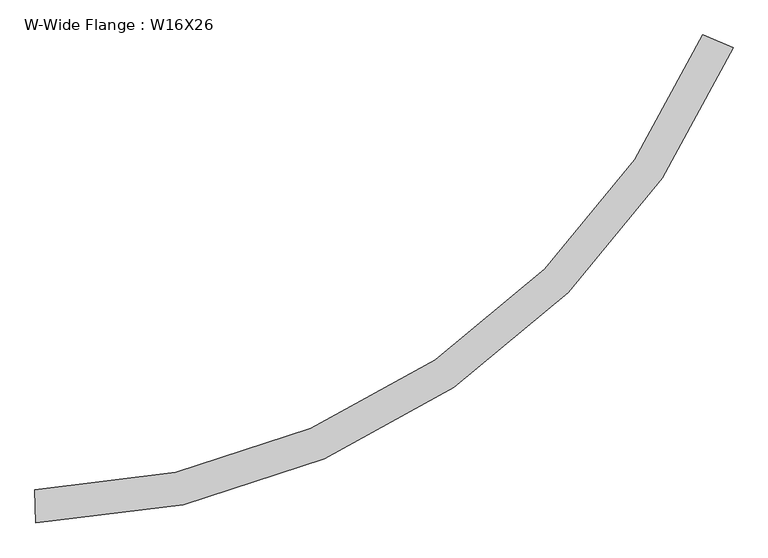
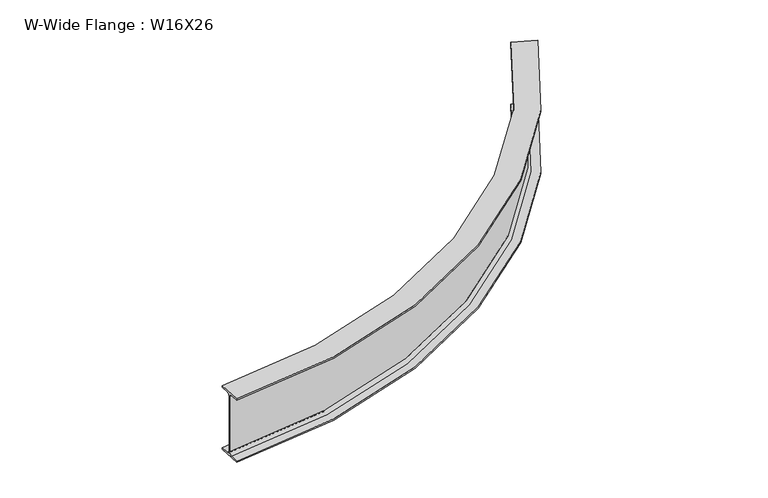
"""IFC4 building model written with IfcOpenShell, lengths in millimetres: beam geometry, W-Wide Flange : W16X26."""

from ifc_helpers import new_model, si_unit, point, frame, origin, place, context, project, spatial, polyline, circle_curve, ellipse_curve, trimmed, source, transform, mapped, element, save
from ifc_brep_helpers import plane_surface, cylinder_surface, revolved_surface, advanced_brep


def w_wide_flange_w16x26_f95649ea(model_context):
    return source(origin(), model_context, "Body", "AdvancedBrep", [
        advanced_brep(
        [(3047.7966024, 1943.1127488, -190.5496094), (3047.7966024, 1943.1127488, -199.2808594), (2919.3102414, 1997.9520143, -199.2808594), (2919.3102414, 1997.9520143, -190.5496094), (2963.842446, 1978.9452234, -190.5496094), (2980.6332773, 1971.7787285, -172.2933594), (2980.6332773, 1971.7787285, 172.2933594), (2963.842446, 1978.9452234, 190.5496094), (2919.3102414, 1997.9520143, 190.5496094), (2919.3102414, 1997.9520143, 199.2808594), (3047.7966024, 1943.1127488, 199.2808594), (3047.7966024, 1943.1127488, 190.5496094), (3003.2643977, 1962.1195397, 190.5496094), (2986.4735664, 1969.2860346, 172.2933594), (2986.4735664, 1969.2860346, -172.2933594), (3003.2643977, 1962.1195397, -190.5496094), (98.9962567, -68.3709627, -190.5496094), (97.5497949, -19.9738233, -190.5496094), (97.0044076, -1.7257216, -172.2933594), (97.0044076, -1.7257216, 172.2933594), (97.5497949, -19.9738233, 190.5496094), (98.9962567, -68.3709627, 190.5496094), (98.9962567, -68.3709627, 199.2808594), (94.8228586, 71.2666853, 199.2808594), (94.8228586, 71.2666853, 190.5496094), (96.2693204, 22.8695459, 190.5496094), (96.8147077, 4.6214442, 172.2933594), (96.8147077, 4.6214442, -172.2933594), (96.2693204, 22.8695459, -190.5496094), (94.8228586, 71.2666853, -190.5496094), (94.8228586, 71.2666853, -199.2808594), (98.9962567, -68.3709627, -199.2808594)],
        [
            (0, 1),
            (1, 2),
            (2, 3),
            (3, 4),
            (4, 5, circle_curve(frame((2963.842446, 1978.9452234, -172.2933594), z_axis=(-0.3925502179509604, -0.9197305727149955, 0.0), x_axis=(-0.9197305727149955, 0.3925502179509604, 0.0)), 18.25625)),
            (5, 6),
            (6, 7, circle_curve(frame((2963.842446, 1978.9452234, 172.2933594), z_axis=(-0.3925502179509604, -0.9197305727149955, 0.0), x_axis=(-0.9197305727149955, 0.3925502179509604, 0.0)), 18.25625)),
            (7, 8),
            (8, 9),
            (9, 10),
            (10, 11),
            (11, 12),
            (12, 13, circle_curve(frame((3003.2643977, 1962.1195397, 172.2933594), z_axis=(-0.3925502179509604, -0.9197305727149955, 0.0), x_axis=(-0.9197305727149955, 0.3925502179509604, 0.0)), 18.25625)),
            (13, 14),
            (14, 15, circle_curve(frame((3003.2643977, 1962.1195397, -172.2933594), z_axis=(-0.3925502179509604, -0.9197305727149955, 0.0), x_axis=(-0.9197305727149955, 0.3925502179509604, 0.0)), 18.25625)),
            (15, 0),
            (16, 17),
            (17, 18, circle_curve(frame((97.5497949, -19.9738233, -172.2933594), z_axis=(0.99955367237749, 0.029874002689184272, 0.0), x_axis=(-0.029874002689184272, 0.99955367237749, 0.0)), 18.25625)),
            (18, 19),
            (19, 20, circle_curve(frame((97.5497949, -19.9738233, 172.2933594), z_axis=(0.99955367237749, 0.029874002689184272, 0.0), x_axis=(-0.029874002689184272, 0.99955367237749, 0.0)), 18.25625)),
            (20, 21),
            (21, 22),
            (22, 23),
            (23, 24),
            (24, 25),
            (25, 26, circle_curve(frame((96.2693204, 22.8695459, 172.2933594), z_axis=(0.99955367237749, 0.029874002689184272, 0.0), x_axis=(-0.029874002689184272, 0.99955367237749, 0.0)), 18.25625)),
            (26, 27),
            (27, 28, circle_curve(frame((96.2693204, 22.8695459, -172.2933594), z_axis=(0.99955367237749, 0.029874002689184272, 0.0), x_axis=(-0.029874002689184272, 0.99955367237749, 0.0)), 18.25625)),
            (28, 29),
            (29, 30),
            (30, 31),
            (31, 16),
            (15, 17, circle_curve(frame((0.0, 3243.9428571, -190.5496094), z_axis=(0.0, 0.0, -1.0), x_axis=(-1.0, 0.0, 0.0)), 3265.3741071)),
            (16, 0, circle_curve(frame((0.0, 3243.9428571, -190.5496094), z_axis=(0.0, 0.0, 1.0), x_axis=(-1.0, 0.0, 0.0)), 3313.7928571)),
            (14, 18, circle_curve(frame((0.0, 3243.9428571, -172.2933594), z_axis=(0.0, 0.0, -1.0), x_axis=(-1.0, 0.0, 0.0)), 3247.1178571)),
            (13, 19, circle_curve(frame((0.0, 3243.9428571, 172.2933594), z_axis=(0.0, 0.0, -1.0), x_axis=(-1.0, 0.0, 0.0)), 3247.1178571)),
            (12, 20, circle_curve(frame((0.0, 3243.9428571, 190.5496094), z_axis=(0.0, 0.0, -1.0), x_axis=(-1.0, 0.0, 0.0)), 3265.3741071)),
            (11, 21, circle_curve(frame((0.0, 3243.9428571, 190.5496094), z_axis=(0.0, 0.0, -1.0), x_axis=(-1.0, 0.0, 0.0)), 3313.7928571)),
            (10, 22, circle_curve(frame((0.0, 3243.9428571, 199.2808594), z_axis=(0.0, 0.0, -1.0), x_axis=(-1.0, 0.0, 0.0)), 3313.7928571)),
            (9, 23, circle_curve(frame((0.0, 3243.9428571, 199.2808594), z_axis=(0.0, 0.0, -1.0), x_axis=(-1.0, 0.0, 0.0)), 3174.0928571)),
            (8, 24, circle_curve(frame((0.0, 3243.9428571, 190.5496094), z_axis=(0.0, 0.0, -1.0), x_axis=(-1.0, 0.0, 0.0)), 3174.0928571)),
            (7, 25, circle_curve(frame((0.0, 3243.9428571, 190.5496094), z_axis=(0.0, 0.0, -1.0), x_axis=(-1.0, 0.0, 0.0)), 3222.5116071)),
            (6, 26, circle_curve(frame((0.0, 3243.9428571, 172.2933594), z_axis=(0.0, 0.0, -1.0), x_axis=(-1.0, 0.0, 0.0)), 3240.7678571)),
            (5, 27, circle_curve(frame((0.0, 3243.9428571, -172.2933594), z_axis=(0.0, 0.0, -1.0), x_axis=(-1.0, 0.0, 0.0)), 3240.7678571)),
            (4, 28, circle_curve(frame((0.0, 3243.9428571, -190.5496094), z_axis=(0.0, 0.0, -1.0), x_axis=(-1.0, 0.0, 0.0)), 3222.5116071)),
            (3, 29, circle_curve(frame((0.0, 3243.9428571, -190.5496094), z_axis=(0.0, 0.0, -1.0), x_axis=(-1.0, 0.0, 0.0)), 3174.0928571)),
            (2, 30, circle_curve(frame((0.0, 3243.9428571, -199.2808594), z_axis=(0.0, 0.0, -1.0), x_axis=(-1.0, 0.0, 0.0)), 3174.0928571)),
            (1, 31, circle_curve(frame((0.0, 3243.9428571, -199.2808594), z_axis=(0.0, 0.0, -1.0), x_axis=(-1.0, 0.0, 0.0)), 3313.7928571)),
        ],
        [
            plane_surface(frame((2983.5534219, 1970.5323816, 0.0), z_axis=(0.39255021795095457, 0.9197305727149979, 0.0), x_axis=(0.0, 0.0, 1.0))),
            plane_surface(frame((96.9095576, 1.4478613, 0.0), z_axis=(-0.9995536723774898, -0.029874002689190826, 0.0), x_axis=(0.0, 0.0, 1.0))),
            plane_surface(frame((0.0, 3243.9428571, -190.5496094), z_axis=(0.0, 0.0, 1.0), x_axis=(-1.0, 0.0, 0.0))),
            revolved_surface(trimmed(ellipse_curve(frame((-3265.3741071, 3243.9428571, -172.2933594), z_axis=(0.0, 1.0, 0.0), x_axis=(1.0, 0.0, 0.0)), 18.25625, 18.25625), [point((-3247.1178571, 3243.9428571, -172.2933594))], [point((-3265.3741071, 3243.9428571, -190.5496094))], True, "CARTESIAN"), (0.0, 3243.9428571, 0.0), (0.0, 0.0, -1.0)),
            cylinder_surface(frame((0.0, 3243.9428571, 0.0), z_axis=(0.0, 0.0, -1.0), x_axis=(-1.0, 0.0, 0.0)), 3247.1178571),
            revolved_surface(trimmed(ellipse_curve(frame((-3265.3741071, 3243.9428571, 172.2933594), z_axis=(0.0, 1.0, 0.0), x_axis=(1.0, 0.0, 0.0)), 18.25625, 18.25625), [point((-3265.3741071, 3243.9428571, 190.5496094))], [point((-3247.1178571, 3243.9428571, 172.2933594))], True, "CARTESIAN"), (0.0, 3243.9428571, 0.0), (0.0, 0.0, -1.0)),
            plane_surface(frame((0.0, 3243.9428571, 190.5496094), z_axis=(0.0, 0.0, -1.0), x_axis=(-1.0, 0.0, 0.0))),
            cylinder_surface(frame((0.0, 3243.9428571, 0.0), z_axis=(0.0, 0.0, -1.0), x_axis=(-1.0, 0.0, 0.0)), 3313.7928571),
            plane_surface(frame((0.0, 3243.9428571, 199.2808594), z_axis=(0.0, 0.0, 1.0), x_axis=(-1.0, 0.0, 0.0))),
            revolved_surface(polyline([(-3174.0928571, 3243.9428571, 190.5496094), (-3174.0928571, 3243.9428571, 199.2808594)]), (0.0, 3243.9428571, 0.0), (0.0, 0.0, -1.0)),
            revolved_surface(trimmed(ellipse_curve(frame((-3222.5116071, 3243.9428571, 172.2933594), z_axis=(0.0, 1.0, 0.0), x_axis=(1.0, 0.0, 0.0)), 18.25625, 18.25625), [point((-3240.7678571, 3243.9428571, 172.2933594))], [point((-3222.5116071, 3243.9428571, 190.5496094))], True, "CARTESIAN"), (0.0, 3243.9428571, 0.0), (0.0, 0.0, -1.0)),
            revolved_surface(polyline([(-3240.7678571, 3243.9428571, -172.2933594), (-3240.7678571, 3243.9428571, 172.2933594)]), (0.0, 3243.9428571, 0.0), (0.0, 0.0, -1.0)),
            revolved_surface(trimmed(ellipse_curve(frame((-3222.5116071, 3243.9428571, -172.2933594), z_axis=(0.0, 1.0, 0.0), x_axis=(1.0, 0.0, 0.0)), 18.25625, 18.25625), [point((-3222.5116071, 3243.9428571, -190.5496094))], [point((-3240.7678571, 3243.9428571, -172.2933594))], True, "CARTESIAN"), (0.0, 3243.9428571, 0.0), (0.0, 0.0, -1.0)),
            revolved_surface(polyline([(-3174.0928571, 3243.9428571, -199.2808594), (-3174.0928571, 3243.9428571, -190.5496094)]), (0.0, 3243.9428571, 0.0), (0.0, 0.0, -1.0)),
            plane_surface(frame((0.0, 3243.9428571, -199.2808594), z_axis=(0.0, 0.0, -1.0), x_axis=(-1.0, 0.0, 0.0))),
        ],
        [
            (0, [[1, 2, 3, 4, 5, 6, 7, 8, 9, 10, 11, 12, 13, 14, 15, 16]]),
            (1, [[17, 18, 19, 20, 21, 22, 23, 24, 25, 26, 27, 28, 29, 30, 31, 32]]),
            (2, [[33, -17, 34, -16]]),
            (3, [[35, -18, -33, -15]]),
            (4, [[36, -19, -35, -14]]),
            (5, [[37, -20, -36, -13]]),
            (6, [[38, -21, -37, -12]]),
            (7, [[39, -22, -38, -11]]),
            (8, [[40, -23, -39, -10]]),
            (9, [[41, -24, -40, -9]]),
            (6, [[42, -25, -41, -8]]),
            (10, [[43, -26, -42, -7]]),
            (11, [[44, -27, -43, -6]]),
            (12, [[45, -28, -44, -5]]),
            (2, [[46, -29, -45, -4]]),
            (13, [[47, -30, -46, -3]]),
            (14, [[48, -31, -47, -2]]),
            (7, [[-34, -32, -48, -1]]),
        ],
    ),
    ])


if __name__ == "__main__":
    model = new_model("IFC4")
    model_context = context("Model", 3, world=origin())
    ifc_project = project(units=[si_unit("LENGTHUNIT", "METRE", prefix="MILLI")], contexts=[model_context])
    site = spatial("IfcSite", under=ifc_project)
    building = spatial("IfcBuilding", under=site)
    placement = place(None, origin())
    w_wide_flange_w16x26_shape = w_wide_flange_w16x26_f95649ea(model_context)
    element("IfcBeam", 1, ObjectType="W-Wide Flange : W16X26", at=placement, inside=building, context=model_context, shape_type="MappedRepresentation", body=[
        mapped(w_wide_flange_w16x26_shape, transform((0.0, 0.0, 0.0), x_axis=(1.0, 0.0, 0.0), y_axis=(0.0, 1.0, 0.0), z_axis=(0.0, 0.0, 1.0))),
    ])
    save(model, "model.ifc")
